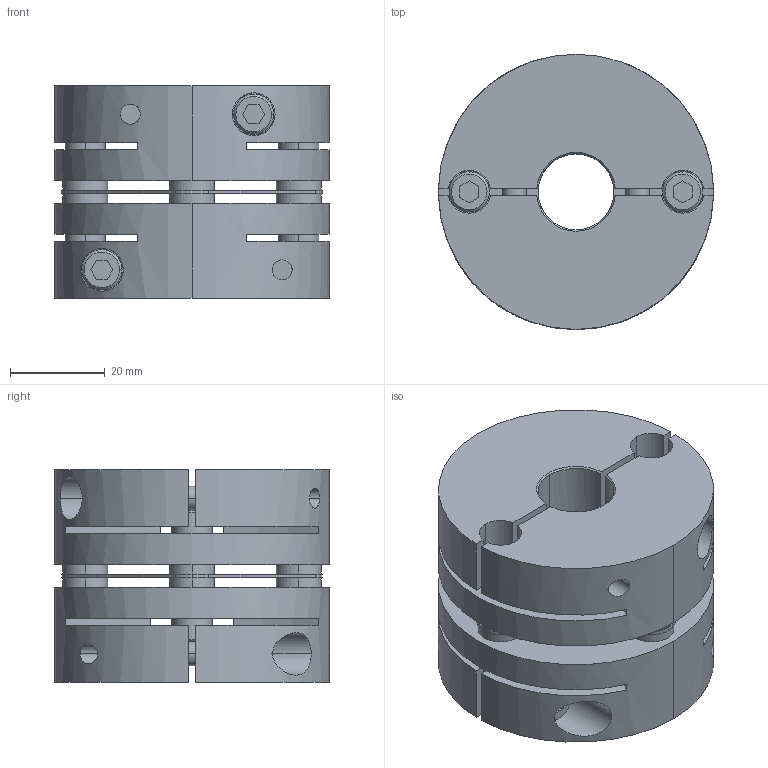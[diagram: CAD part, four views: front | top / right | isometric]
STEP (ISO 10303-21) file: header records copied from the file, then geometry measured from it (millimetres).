
FILE_DESCRIPTION((''),'2;1');
FILE_NAME('LAS-58C-16×20.stp','2011-08-09T15:28:42',(''),(''),'AutoCAD STEP 2000i','AutoCAD 2000i',', , ');
FILE_SCHEMA(('CONFIG_CONTROL_DESIGN'));
Length unit declared in the file: millimetre
Products named in the file (6): LAS-58C-12×19; 忣兜1; LA-5802-D19; LA-5802-D12-1; LA-5802-D12; LAS58-ITA
Assembly tree (5 placements, depth 2):
  LAS-58C-12×19
    忣兜1
    LA-5802-D19
    LA-5802-D12-1
    LA-5802-D12
    LAS58-ITA
Bounding box: 58 x 58 x 44.8 mm (x, y, z)
Volume: 86196.5 mm3; surface area: 33197.7 mm2
Topology: 1 solids, 1 shells, 238 faces, 618 edges, 404 vertices
Faces by surface type: plane 114, cylinder 96, cone 28
Entity records: 8213 total; most frequent: CARTESIAN_POINT 1988, DIRECTION 1316, ORIENTED_EDGE 1240, EDGE_CURVE 620, AXIS2_PLACEMENT_3D 484, VERTEX_POINT 404, VECTOR 348, LINE 348
